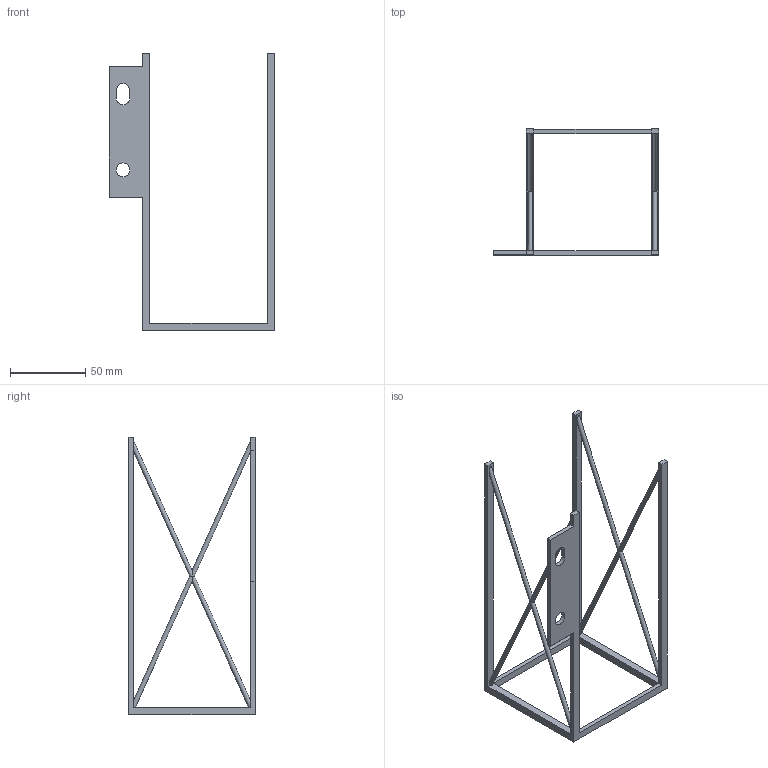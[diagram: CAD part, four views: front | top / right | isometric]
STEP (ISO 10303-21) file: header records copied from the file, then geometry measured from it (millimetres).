
FILE_DESCRIPTION(('FreeCAD Model'),'2;1');
FILE_NAME('Open CASCADE Shape Model','2026-09-11T23:31:28',('FreeCAD'),( 'FreeCAD'),'Open CASCADE STEP processor 7.8','FreeCAD','Unknown');
FILE_SCHEMA(('AUTOMOTIVE_DESIGN { 1 0 10303 214 1 1 1 1 }'));
Length unit declared in the file: millimetre
Products named in the file (1): Open CASCADE STEP translator 7.8 7
Bounding box: 110 x 84 x 185 mm (x, y, z)
Volume: 27844 mm3; surface area: 28123.8 mm2
Topology: 1 solids, 1 shells, 42 faces, 131 edges, 82 vertices
Faces by surface type: plane 31, cylinder 11
Full cylindrical faces by diameter (mm): 3 x8, 9.2 x1
Entity records: 1491 total; most frequent: ORIENTED_EDGE 262, CARTESIAN_POINT 256, DIRECTION 255, EDGE_CURVE 131, LINE 93, VECTOR 93, VERTEX_POINT 82, AXIS2_PLACEMENT_3D 81
